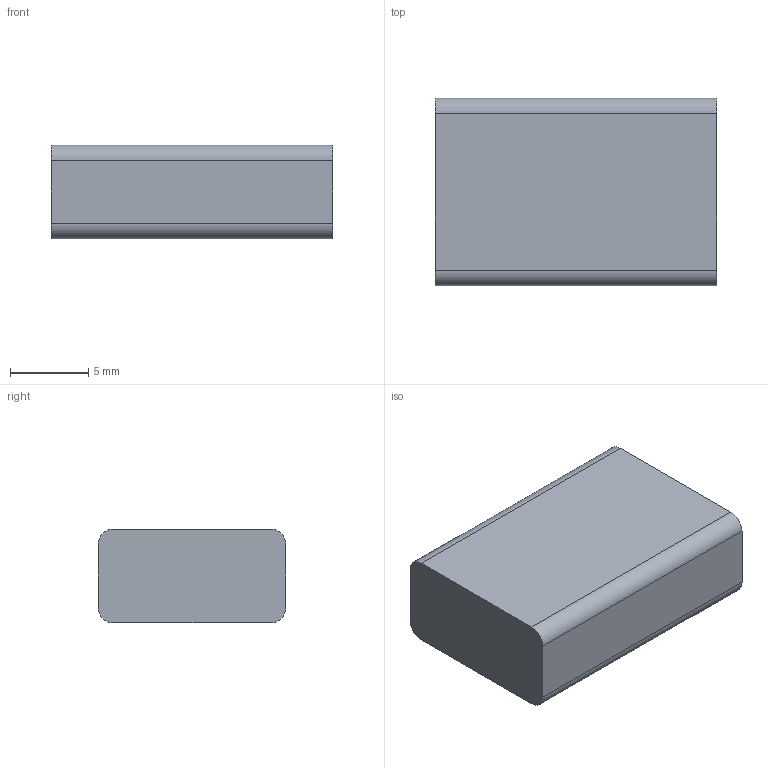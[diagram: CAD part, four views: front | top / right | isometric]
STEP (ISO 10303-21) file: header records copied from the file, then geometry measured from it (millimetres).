
FILE_DESCRIPTION(('Open CASCADE Model'),'2;1');
FILE_NAME('Open CASCADE Shape Model','2026-09-06T11:32:43',('Author'),( 'Open CASCADE'),'Open CASCADE STEP processor 7.7','Open CASCADE 7.7' ,'Unknown');
FILE_SCHEMA(('AUTOMOTIVE_DESIGN { 1 0 10303 214 1 1 1 1 }'));
Length unit declared in the file: millimetre
Products named in the file (1): Open CASCADE STEP translator 7.7 6
Bounding box: 18 x 12 x 6 mm (x, y, z)
Volume: 1280.5 mm3; surface area: 759.4 mm2
Topology: 1 solids, 1 shells, 10 faces, 24 edges, 16 vertices
Faces by surface type: plane 6, cylinder 4
Entity records: 630 total; most frequent: CARTESIAN_POINT 123, DIRECTION 98, LINE 56, VECTOR 56, ORIENTED_EDGE 48, PCURVE 48, DEFINITIONAL_REPRESENTATION 48, EDGE_CURVE 24
